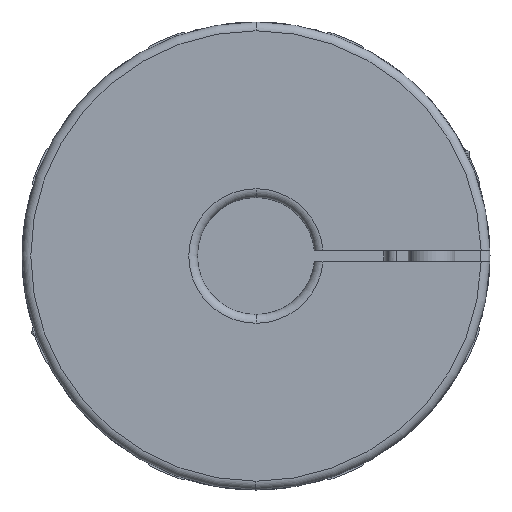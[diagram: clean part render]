
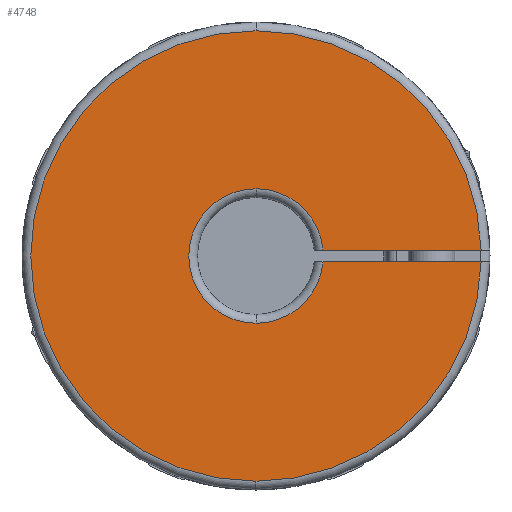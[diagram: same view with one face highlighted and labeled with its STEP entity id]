
A CAD part, left-side view. The second image highlights one B-rep face of the part: STEP entity #4748.
In plain terms, the highlighted planar face has unit normal (-1, 0, 0).
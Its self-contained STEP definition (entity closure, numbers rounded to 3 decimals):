
#60 = CIRCLE ( 'NONE', #6187, 11.5 ) ;
#196 = CARTESIAN_POINT ( 'NONE',  ( -22.2, 0., -1. ) ) ;
#704 = CIRCLE ( 'NONE', #9013, 11.5 ) ;
#733 = CARTESIAN_POINT ( 'NONE',  ( -22.2, 11.5, 0. ) ) ;
#737 = DIRECTION ( 'NONE',  ( 0., 0., 1. ) ) ;
#1028 = CIRCLE ( 'NONE', #4784, 38.5 ) ;
#1195 = ORIENTED_EDGE ( 'NONE', *, *, #11733, .F. ) ;
#1279 = DIRECTION ( 'NONE',  ( 0., 0., 1. ) ) ;
#1420 = VERTEX_POINT ( 'NONE', #4181 ) ;
#1621 = ORIENTED_EDGE ( 'NONE', *, *, #4374, .T. ) ;
#1651 = CARTESIAN_POINT ( 'NONE',  ( -22.2, 0., 0. ) ) ;
#1656 = DIRECTION ( 'NONE',  ( 0., 0., 1. ) ) ;
#1769 = DIRECTION ( 'NONE',  ( 0., 0., -1. ) ) ;
#1935 = ORIENTED_EDGE ( 'NONE', *, *, #7720, .T. ) ;
#2144 = VERTEX_POINT ( 'NONE', #5647 ) ;
#2189 = DIRECTION ( 'NONE',  ( 0., 1., 0. ) ) ;
#2329 = EDGE_LOOP ( 'NONE', ( #4702, #7615, #8257, #1621, #6399, #1935, #1195, #3067 ) ) ;
#2748 = CIRCLE ( 'NONE', #13006, 38.5 ) ;
#2886 = AXIS2_PLACEMENT_3D ( 'NONE', #3257, #6346, #9534 ) ;
#3067 = ORIENTED_EDGE ( 'NONE', *, *, #7600, .F. ) ;
#3257 = CARTESIAN_POINT ( 'NONE',  ( -22.2, 0., 0. ) ) ;
#3405 = CARTESIAN_POINT ( 'NONE',  ( -22.2, -38.487, 1. ) ) ;
#3476 = CARTESIAN_POINT ( 'NONE',  ( -22.2, 0., 38.5 ) ) ;
#3766 = CARTESIAN_POINT ( 'NONE',  ( -22.2, 0., -38.5 ) ) ;
#4181 = CARTESIAN_POINT ( 'NONE',  ( -22.2, -11.456, -1. ) ) ;
#4216 = CIRCLE ( 'NONE', #2886, 38.5 ) ;
#4368 = VERTEX_POINT ( 'NONE', #9161 ) ;
#4374 = EDGE_CURVE ( 'NONE', #10158, #5676, #2748, .T. ) ;
#4702 = ORIENTED_EDGE ( 'NONE', *, *, #7989, .F. ) ;
#4748 = ADVANCED_FACE ( 'NONE', ( #12034 ), #7108, .F. ) ;
#4784 = AXIS2_PLACEMENT_3D ( 'NONE', #9682, #12763, #1279 ) ;
#4797 = DIRECTION ( 'NONE',  ( 1., 0., 0. ) ) ;
#5070 = CARTESIAN_POINT ( 'NONE',  ( -22.2, 0., -11.5 ) ) ;
#5647 = CARTESIAN_POINT ( 'NONE',  ( -22.2, -11.456, 1. ) ) ;
#5676 = VERTEX_POINT ( 'NONE', #3766 ) ;
#5833 = DIRECTION ( 'NONE',  ( -1., 0., 0. ) ) ;
#5844 = EDGE_CURVE ( 'NONE', #10208, #10158, #1028, .T. ) ;
#5848 = DIRECTION ( 'NONE',  ( -1., 0., 0. ) ) ;
#5903 = LINE ( 'NONE', #12306, #7373 ) ;
#5911 = DIRECTION ( 'NONE',  ( -1., 0., 0. ) ) ;
#6187 = AXIS2_PLACEMENT_3D ( 'NONE', #9084, #5833, #737 ) ;
#6346 = DIRECTION ( 'NONE',  ( -1., 0., 0. ) ) ;
#6370 = CARTESIAN_POINT ( 'NONE',  ( -22.2, -38.487, -1. ) ) ;
#6399 = ORIENTED_EDGE ( 'NONE', *, *, #6454, .T. ) ;
#6417 = VECTOR ( 'NONE', #2189, 1000. ) ;
#6454 = EDGE_CURVE ( 'NONE', #5676, #8383, #4216, .T. ) ;
#7108 = PLANE ( 'NONE',  #7588 ) ;
#7373 = VECTOR ( 'NONE', #7935, 1000. ) ;
#7558 = DIRECTION ( 'NONE',  ( -1., 0., 0. ) ) ;
#7588 = AXIS2_PLACEMENT_3D ( 'NONE', #733, #4797, #1769 ) ;
#7600 = EDGE_CURVE ( 'NONE', #4368, #11891, #704, .T. ) ;
#7615 = ORIENTED_EDGE ( 'NONE', *, *, #12730, .T. ) ;
#7720 = EDGE_CURVE ( 'NONE', #8383, #1420, #10538, .T. ) ;
#7935 = DIRECTION ( 'NONE',  ( 0., -1., 0. ) ) ;
#7989 = EDGE_CURVE ( 'NONE', #2144, #4368, #60, .T. ) ;
#8019 = CARTESIAN_POINT ( 'NONE',  ( -22.2, 0., 0. ) ) ;
#8152 = DIRECTION ( 'NONE',  ( 0., 0., 1. ) ) ;
#8257 = ORIENTED_EDGE ( 'NONE', *, *, #5844, .T. ) ;
#8383 = VERTEX_POINT ( 'NONE', #6370 ) ;
#9013 = AXIS2_PLACEMENT_3D ( 'NONE', #8019, #5848, #1656 ) ;
#9084 = CARTESIAN_POINT ( 'NONE',  ( -22.2, 0., 0. ) ) ;
#9161 = CARTESIAN_POINT ( 'NONE',  ( -22.2, 0., 11.5 ) ) ;
#9534 = DIRECTION ( 'NONE',  ( 0., 0., 1. ) ) ;
#9653 = AXIS2_PLACEMENT_3D ( 'NONE', #12749, #7558, #11933 ) ;
#9682 = CARTESIAN_POINT ( 'NONE',  ( -22.2, 0., 0. ) ) ;
#10158 = VERTEX_POINT ( 'NONE', #3476 ) ;
#10208 = VERTEX_POINT ( 'NONE', #3405 ) ;
#10538 = LINE ( 'NONE', #196, #6417 ) ;
#11733 = EDGE_CURVE ( 'NONE', #11891, #1420, #12721, .T. ) ;
#11891 = VERTEX_POINT ( 'NONE', #5070 ) ;
#11933 = DIRECTION ( 'NONE',  ( 0., 0., 1. ) ) ;
#12034 = FACE_OUTER_BOUND ( 'NONE', #2329, .T. ) ;
#12306 = CARTESIAN_POINT ( 'NONE',  ( -22.2, 0., 1. ) ) ;
#12721 = CIRCLE ( 'NONE', #9653, 11.5 ) ;
#12730 = EDGE_CURVE ( 'NONE', #2144, #10208, #5903, .T. ) ;
#12749 = CARTESIAN_POINT ( 'NONE',  ( -22.2, 0., 0. ) ) ;
#12763 = DIRECTION ( 'NONE',  ( -1., 0., 0. ) ) ;
#13006 = AXIS2_PLACEMENT_3D ( 'NONE', #1651, #5911, #8152 ) ;
